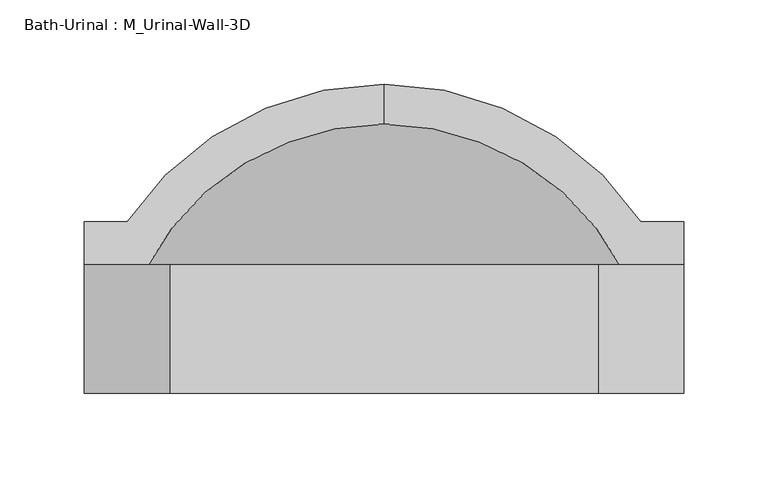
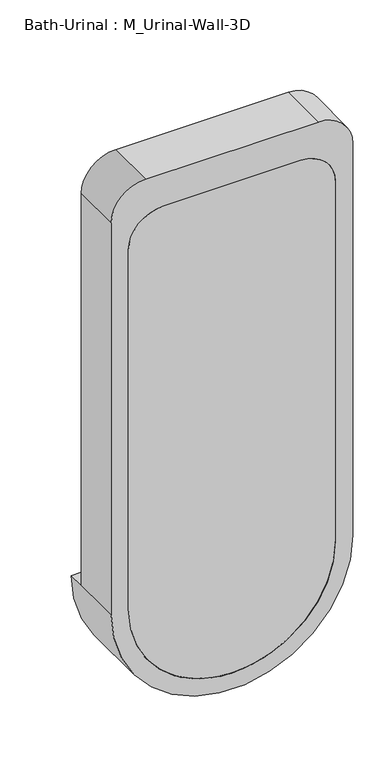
"""IFC4 building model written with IfcOpenShell, lengths in millimetres: flow terminal geometry, Bath-Urinal : M_Urinal-Wall-3D."""

from ifc_helpers import new_model, si_unit, point, frame, frame_2d, origin, place, context, project, spatial, polyline, circle_curve, ellipse_curve, trimmed, segment, composite_curve, outline, extrude, source, transform, mapped, element, save
from ifc_brep_helpers import plane_surface, cylinder_surface, revolved_surface, advanced_brep


def bath_urinal_m_urinal_wall_3d_10477d84(model_context):
    return source(origin(), model_context, "Body", "SolidModel", [
        advanced_brep(
        [(-109.0745999, 360.9620048, 610.0), (-109.0745999, 337.2447043, 610.0), (43.3254001, 224.6706063, 610.0), (43.3254001, 254.0, 610.0), (68.7254001, 254.0, 610.0), (68.7254001, 279.4, 610.0), (43.3254001, 279.4, 610.0), (-261.4745999, 279.4, 610.0), (-286.8745999, 279.4, 610.0), (-286.8745999, 254.0, 610.0), (-261.4745999, 254.0, 610.0), (-261.4745999, 224.6706063, 610.0), (-261.4745999, 177.8, 610.0), (43.3254001, 177.8, 610.0), (-286.8745999, 177.8, 610.0), (68.7254001, 177.8, 610.0), (68.7254001, 177.8, 1219.6), (17.9254001, 177.8, 1270.4), (-236.0745999, 177.8, 1270.4), (-286.8745999, 177.8, 1219.6), (-261.4745999, 177.8, 1168.8), (-210.6745999, 177.8, 1219.6), (-7.4745999, 177.8, 1219.6), (43.3254001, 177.8, 1168.8), (43.3254001, 254.0, 1168.8), (-7.4745999, 254.0, 1219.6), (-210.6745999, 254.0, 1219.6), (-261.4745999, 254.0, 1168.8), (-286.8745999, 254.0, 1219.6), (-236.0745999, 254.0, 1270.4), (17.9254001, 254.0, 1270.4), (68.7254001, 254.0, 1219.6)],
        [
            (0, 1),
            (1, 2, circle_curve(frame((-109.0745999, 177.8, 610.0), z_axis=(0.0, 0.0, -1.0), x_axis=(1.0, 0.0, 0.0)), 159.4447043)),
            (2, 3),
            (3, 4),
            (4, 5),
            (5, 6),
            (6, 0, circle_curve(frame((-109.0745999, 177.8, 610.0), z_axis=(0.0, 0.0, 1.0), x_axis=(1.0, 0.0, 0.0)), 183.1620048)),
            (0, 7, circle_curve(frame((-109.0745999, 177.8, 610.0), z_axis=(0.0, 0.0, 1.0), x_axis=(-1.0, 0.0, 0.0)), 183.1620048)),
            (7, 8),
            (8, 9),
            (9, 10),
            (10, 11),
            (11, 1, circle_curve(frame((-109.0745999, 177.8, 610.0), z_axis=(0.0, 0.0, -1.0), x_axis=(-1.0, 0.0, 0.0)), 159.4447043)),
            (11, 2, circle_curve(frame((-109.0745999, 224.6706063, 610.0), z_axis=(0.0, -1.0, 0.0), x_axis=(1.0, 0.0, 0.0)), 152.4)),
            (11, 12),
            (12, 13, circle_curve(frame((-109.0745999, 177.8, 610.0), z_axis=(0.0, -1.0, 0.0), x_axis=(1.0, 0.0, 0.0)), 152.4)),
            (13, 2),
            (14, 15, circle_curve(frame((-109.0745999, 177.8, 610.0), z_axis=(0.0, -1.0, 0.0), x_axis=(1.0, 0.0, 0.0)), 177.8)),
            (15, 16),
            (16, 17, circle_curve(frame((17.9254001, 177.8, 1219.6), z_axis=(0.0, -1.0, 0.0), x_axis=(-1.0, 0.0, 0.0)), 50.8)),
            (17, 18),
            (18, 19, circle_curve(frame((-236.0745999, 177.8, 1219.6), z_axis=(0.0, -1.0, 0.0), x_axis=(-1.0, 0.0, 0.0)), 50.8)),
            (19, 14),
            (12, 20),
            (20, 21, circle_curve(frame((-210.6745999, 177.8, 1168.8), z_axis=(0.0, 1.0, 0.0), x_axis=(-1.0, 0.0, 0.0)), 50.8)),
            (21, 22),
            (22, 23, circle_curve(frame((-7.4745999, 177.8, 1168.8), z_axis=(0.0, 1.0, 0.0), x_axis=(-1.0, 0.0, 0.0)), 50.8)),
            (23, 13),
            (14, 9),
            (8, 5, circle_curve(frame((-109.0745999, 279.4, 610.0), z_axis=(0.0, -1.0, 0.0), x_axis=(1.0, 0.0, 0.0)), 177.8)),
            (4, 15),
            (7, 6, circle_curve(frame((-109.0745999, 279.4, 610.0), z_axis=(0.0, -1.0, 0.0), x_axis=(1.0, 0.0, 0.0)), 152.4)),
            (3, 24),
            (24, 25, circle_curve(frame((-7.4745999, 254.0, 1168.8), z_axis=(0.0, -1.0, 0.0), x_axis=(-1.0, 0.0, 0.0)), 50.8)),
            (25, 26),
            (26, 27, circle_curve(frame((-210.6745999, 254.0, 1168.8), z_axis=(0.0, -1.0, 0.0), x_axis=(-1.0, 0.0, 0.0)), 50.8)),
            (27, 10),
            (9, 28),
            (28, 29, circle_curve(frame((-236.0745999, 254.0, 1219.6), z_axis=(0.0, 1.0, 0.0), x_axis=(-1.0, 0.0, 0.0)), 50.8)),
            (29, 30),
            (30, 31, circle_curve(frame((17.9254001, 254.0, 1219.6), z_axis=(0.0, 1.0, 0.0), x_axis=(-1.0, 0.0, 0.0)), 50.8)),
            (31, 4),
            (23, 24),
            (22, 25),
            (21, 26),
            (20, 27),
            (19, 28),
            (18, 29),
            (17, 30),
            (16, 31),
        ],
        [
            plane_surface(frame((-109.0745999, 467.0104173, 610.0), z_axis=(0.0, 0.0, 1.0), x_axis=(1.0, 0.0, 0.0))),
            plane_surface(frame((-109.0745999, 467.0104173, 610.0), z_axis=(0.0, 0.0, 1.0), x_axis=(-1.0, 0.0, 0.0))),
            revolved_surface(trimmed(ellipse_curve(frame((-109.0745999, 177.8, 610.0), z_axis=(0.0, 0.0, -1.0), x_axis=(1.0, 0.0, 0.0)), 159.4447043, 159.4447043), [point((-109.0745999, 337.2447043, 610.0))], [point((43.3254001, 224.6706063, 610.0))], True, "CARTESIAN"), (-109.0745999, 467.0104173, 610.0), (0.0, 1.0, 0.0)),
            revolved_surface(polyline([(43.32540010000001, 224.6706063, 610.0), (43.32540010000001, 177.8, 610.0)]), (-109.0745999, 467.0104173, 610.0), (0.0, 1.0, 0.0)),
            plane_surface(frame((-109.0745999, 177.8, 610.0), z_axis=(0.0, -1.0, 0.0), x_axis=(1.0, 0.0, 0.0))),
            cylinder_surface(frame((-109.0745999, 467.0104173, 610.0), z_axis=(0.0, 1.0, 0.0), x_axis=(1.0, 0.0, 0.0)), 177.8),
            plane_surface(frame((-109.0745999, 279.4, 610.0), z_axis=(0.0, 1.0, 0.0), x_axis=(1.0, 0.0, 0.0))),
            revolved_surface(trimmed(ellipse_curve(frame((-109.0745999, 177.8, 610.0), z_axis=(0.0, 0.0, 1.0), x_axis=(1.0, 0.0, 0.0)), 183.1620048, 183.1620048), [point((43.3254001, 279.4, 610.0))], [point((-109.0745999, 360.9620048, 610.0))], True, "CARTESIAN"), (-109.0745999, 467.0104173, 610.0), (0.0, 1.0, 0.0)),
            plane_surface(frame((43.3254001, 254.0, 610.0), z_axis=(0.0, 1.0, 0.0), x_axis=(0.0, 0.0, 1.0))),
            plane_surface(frame((43.3254001, 254.0, 610.0), z_axis=(-1.0, 0.0, 0.0), x_axis=(0.0, -1.0, 0.0))),
            revolved_surface(polyline([(-58.2745999, 177.8, 1168.8), (-58.2745999, 254.0, 1168.8)]), (-7.4745999, 177.8, 1168.8), (0.0, -1.0, 0.0)),
            plane_surface(frame((-7.4745999, 254.0, 1219.6), z_axis=(0.0, 0.0, -1.0), x_axis=(0.0, -1.0, 0.0))),
            revolved_surface(polyline([(-261.4745999, 177.8, 1168.8), (-261.4745999, 254.0, 1168.8)]), (-210.6745999, 177.8, 1168.8), (0.0, -1.0, 0.0)),
            plane_surface(frame((-261.4745999, 254.0, 1168.8), z_axis=(1.0, 0.0, 0.0), x_axis=(0.0, -1.0, 0.0))),
            plane_surface(frame((-286.8745999, 254.0, 610.0), z_axis=(-1.0, 0.0, 0.0), x_axis=(0.0, -1.0, 0.0))),
            cylinder_surface(frame((-236.0745999, 177.8, 1219.6), z_axis=(0.0, 1.0, 0.0), x_axis=(-1.0, 0.0, 0.0)), 50.8),
            plane_surface(frame((-236.0745999, 254.0, 1270.4), z_axis=(0.0, 0.0, 1.0), x_axis=(0.0, -1.0, 0.0))),
            cylinder_surface(frame((17.9254001, 177.8, 1219.6), z_axis=(0.0, 1.0, 0.0), x_axis=(-1.0, 0.0, 0.0)), 50.8),
            plane_surface(frame((68.7254001, 254.0, 1219.6), z_axis=(1.0, 0.0, 0.0), x_axis=(0.0, -1.0, 0.0))),
        ],
        [
            (0, [[1, 2, 3, 4, 5, 6, 7]]),
            (1, [[-1, 8, 9, 10, 11, 12, 13]]),
            (2, [[-2, -13, 14]]),
            (3, [[-14, 15, 16, 17]]),
            (4, [[18, 19, 20, 21, 22, 23], [-16, 24, 25, 26, 27, 28]]),
            (5, [[-18, 29, -10, 30, -5, 31]]),
            (6, [[-6, -30, -9, 32]]),
            (7, [[-7, -32, -8]]),
            (8, [[33, 34, 35, 36, 37, -11, 38, 39, 40, 41, 42, -4]]),
            (9, [[-33, -3, -17, -28, 43]]),
            (10, [[-34, -43, -27, 44]]),
            (11, [[-35, -44, -26, 45]]),
            (12, [[-36, -45, -25, 46]]),
            (13, [[-37, -46, -24, -15, -12]]),
            (14, [[-38, -29, -23, 47]]),
            (15, [[-39, -47, -22, 48]]),
            (16, [[-40, -48, -21, 49]]),
            (17, [[-41, -49, -20, 50]]),
            (18, [[-42, -50, -19, -31]]),
        ],
    ),
        extrude(outline(composite_curve([segment(trimmed(circle_curve(frame_2d((1168.8, -7.4745999)), 50.8), [point((1168.8, 43.3254001))], [point((1219.6, -7.4745999))], False, "CARTESIAN"), True, "CONTINUOUS"), segment(polyline([(1219.6, -7.4745999), (1219.6, -210.6745999)]), True, "CONTINUOUS"), segment(trimmed(circle_curve(frame_2d((1168.8, -210.6745999)), 50.8), [point((1219.6, -210.6745999))], [point((1168.8, -261.4745999))], False, "CARTESIAN"), True, "CONTINUOUS"), segment(polyline([(1168.8, -261.4745999), (610.0, -261.4745999)]), True, "CONTINUOUS"), segment(trimmed(circle_curve(frame_2d((610.0, -109.0745999)), 152.4), [point((610.0, -261.4745999))], [point((610.0, 43.3254001))], False, "CARTESIAN"), True, "CONTINUOUS"), segment(polyline([(610.0, 43.3254001), (1168.8, 43.3254001)]), True, "CONTINUOUS")], self_intersect=False)), frame((0.0, 177.8, 0.0), z_axis=(0.0, 1.0, 0.0), x_axis=(0.0, 0.0, 1.0)), (0.0, 0.0, 1.0), 12.7),
    ])


if __name__ == "__main__":
    model = new_model("IFC4")
    model_context = context("Model", 3, world=origin())
    ifc_project = project(units=[si_unit("LENGTHUNIT", "METRE", prefix="MILLI")], contexts=[model_context])
    site = spatial("IfcSite", under=ifc_project)
    building = spatial("IfcBuilding", under=site)
    placement = place(None, origin())
    bath_urinal_m_urinal_wall_3d_shape = bath_urinal_m_urinal_wall_3d_10477d84(model_context)
    element("IfcFlowTerminal", 1, ObjectType="Bath-Urinal : M_Urinal-Wall-3D", at=placement, inside=building, context=model_context, shape_type="MappedRepresentation", body=[
        mapped(bath_urinal_m_urinal_wall_3d_shape, transform((0.0, 0.0, 0.0), x_axis=(1.0, 0.0, 0.0), y_axis=(0.0, 1.0, 0.0), z_axis=(0.0, 0.0, 1.0))),
    ])
    save(model, "model.ifc")
